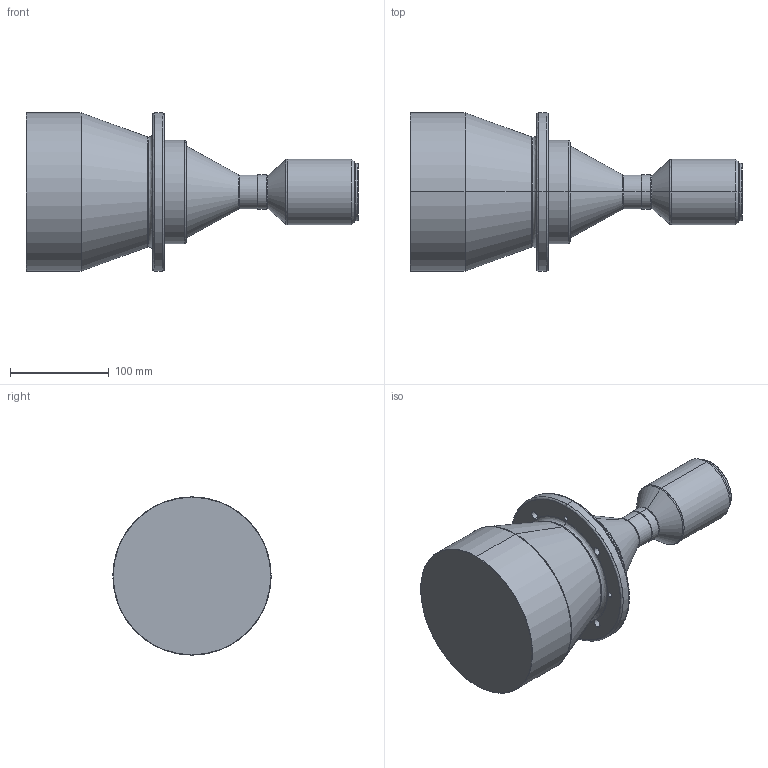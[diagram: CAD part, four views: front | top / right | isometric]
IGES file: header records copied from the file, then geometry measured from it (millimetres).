
Start section: SolidWorks IGES file using analytic representation for surfaces
Global section: file name: C:\Users\Administrator\Desktop\DTCM430H-120H-M58-AL.IGS; native system: SolidWorks 2017; preprocessor: SolidWorks 2017; author: Administrator; date: 210315.114201; units: millimetre
Bounding box: 335.9 x 160 x 160 mm (x, y, z)
Surface area: 154565.2 mm2 (no closed solid volume)
Topology: 0 solids, 0 shells, 75 faces, 1852 edges, 1852 vertices
Faces by surface type: revolution 50, bspline 25
